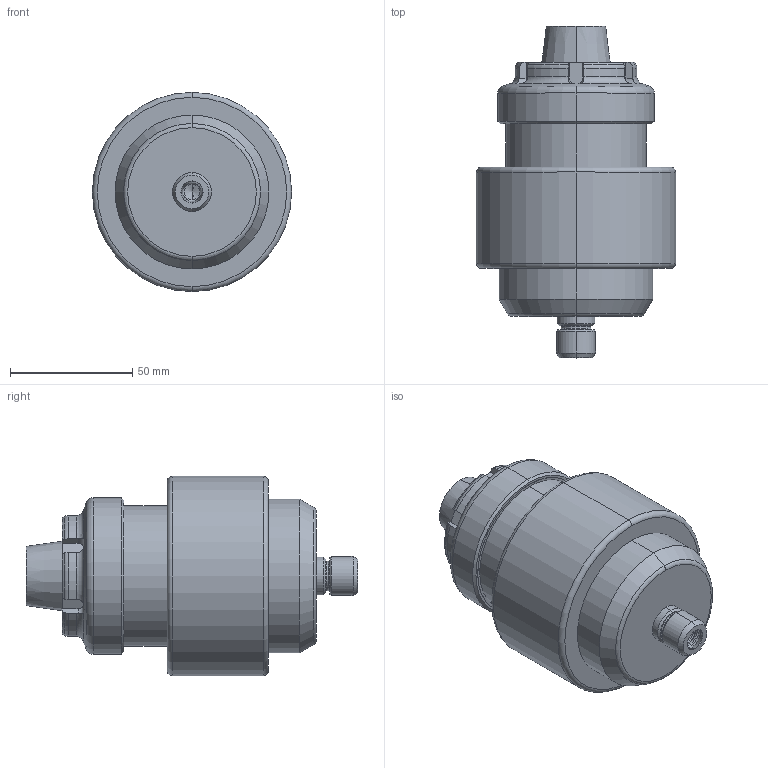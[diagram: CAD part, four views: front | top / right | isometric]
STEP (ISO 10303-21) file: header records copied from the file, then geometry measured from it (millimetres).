
FILE_DESCRIPTION (( 'STEP AP214' ), '1' );
FILE_NAME ('TJS-GJET-ER32-light Rev.1.STEP', '2018-03-19T06:17:15', ( '' ), ( '' ), 'SwSTEP 2.0', 'SolidWorks 2015', '' );
FILE_SCHEMA (( 'AUTOMOTIVE_DESIGN' ));
Length unit declared in the file: millimetre
Products named in the file (1): TJS-GJET-ER32-light Rev.1
Bounding box: 81.5 x 135.84 x 81.5 mm (x, y, z)
Volume: 388390.4 mm3; surface area: 46896.5 mm2
Topology: 2 solids, 2 shells, 163 faces, 388 edges, 240 vertices
Faces by surface type: cylinder 56, plane 41, cone 40, torus 26
Entity records: 4957 total; most frequent: CARTESIAN_POINT 1172, DIRECTION 808, ORIENTED_EDGE 768, EDGE_CURVE 384, AXIS2_PLACEMENT_3D 332, VERTEX_POINT 240, EDGE_LOOP 180, CIRCLE 168
